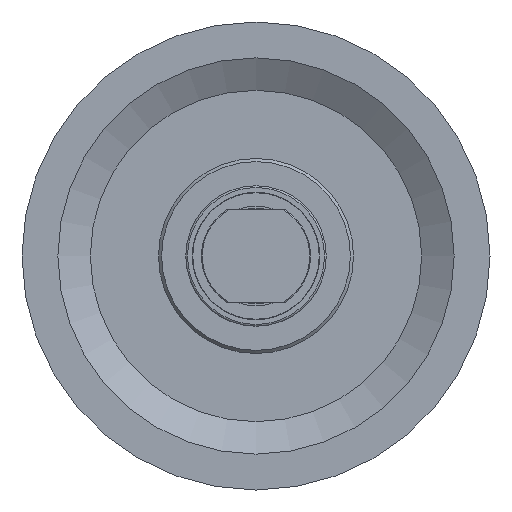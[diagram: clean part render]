
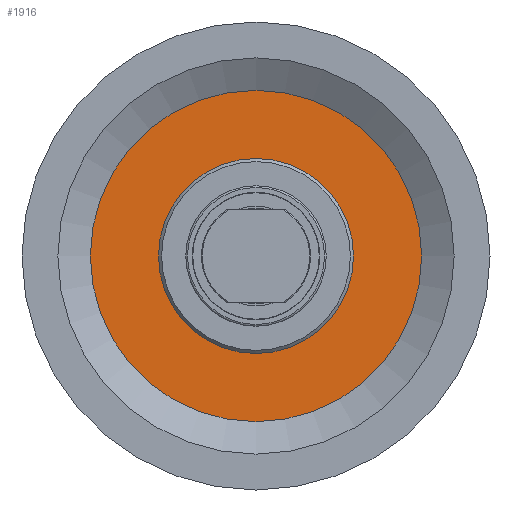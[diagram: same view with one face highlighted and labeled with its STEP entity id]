
A CAD part, left-side view. The second image highlights one B-rep face of the part: STEP entity #1916.
In plain terms, the highlighted planar face has unit normal (-1, 0, 0).
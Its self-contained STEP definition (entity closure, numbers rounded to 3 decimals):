
#311=FACE_BOUND('',#467,.T.);
#354=FACE_OUTER_BOUND('',#466,.T.);
#466=EDGE_LOOP('',(#1387,#1388));
#467=EDGE_LOOP('',(#1389,#1390));
#627=CIRCLE('',#2332,62.5);
#628=CIRCLE('',#2333,62.5);
#629=CIRCLE('',#2336,106.215);
#630=CIRCLE('',#2337,106.215);
#833=VERTEX_POINT('',#3467);
#834=VERTEX_POINT('',#3468);
#835=VERTEX_POINT('',#3475);
#836=VERTEX_POINT('',#3476);
#1054=EDGE_CURVE('',#833,#834,#627,.T.);
#1055=EDGE_CURVE('',#834,#833,#628,.T.);
#1058=EDGE_CURVE('',#835,#836,#629,.T.);
#1059=EDGE_CURVE('',#836,#835,#630,.T.);
#1387=ORIENTED_EDGE('',*,*,#1058,.F.);
#1388=ORIENTED_EDGE('',*,*,#1059,.F.);
#1389=ORIENTED_EDGE('',*,*,#1054,.T.);
#1390=ORIENTED_EDGE('',*,*,#1055,.T.);
#1863=PLANE('',#2335);
#1916=ADVANCED_FACE('',(#354,#311),#1863,.T.);
#2332=AXIS2_PLACEMENT_3D('',#3469,#2746,#2747);
#2333=AXIS2_PLACEMENT_3D('',#3470,#2748,#2749);
#2335=AXIS2_PLACEMENT_3D('',#3474,#2754,#2755);
#2336=AXIS2_PLACEMENT_3D('',#3477,#2756,#2757);
#2337=AXIS2_PLACEMENT_3D('',#3478,#2758,#2759);
#2746=DIRECTION('center_axis',(1.,0.,0.));
#2747=DIRECTION('ref_axis',(0.,0.,-1.));
#2748=DIRECTION('center_axis',(1.,0.,0.));
#2749=DIRECTION('ref_axis',(0.,0.,-1.));
#2754=DIRECTION('center_axis',(-1.,0.,0.));
#2755=DIRECTION('ref_axis',(0.,0.,1.));
#2756=DIRECTION('center_axis',(1.,0.,0.));
#2757=DIRECTION('ref_axis',(0.,0.,-1.));
#2758=DIRECTION('center_axis',(1.,0.,0.));
#2759=DIRECTION('ref_axis',(0.,0.,-1.));
#3467=CARTESIAN_POINT('',(-8.,62.5,0.));
#3468=CARTESIAN_POINT('',(-8.,-62.5,0.));
#3469=CARTESIAN_POINT('Origin',(-8.,0.,0.));
#3470=CARTESIAN_POINT('Origin',(-8.,0.,0.));
#3474=CARTESIAN_POINT('Origin',(-8.,106.215,0.));
#3475=CARTESIAN_POINT('',(-8.,106.215,0.));
#3476=CARTESIAN_POINT('',(-8.,-106.215,0.));
#3477=CARTESIAN_POINT('Origin',(-8.,0.,0.));
#3478=CARTESIAN_POINT('Origin',(-8.,0.,0.));
